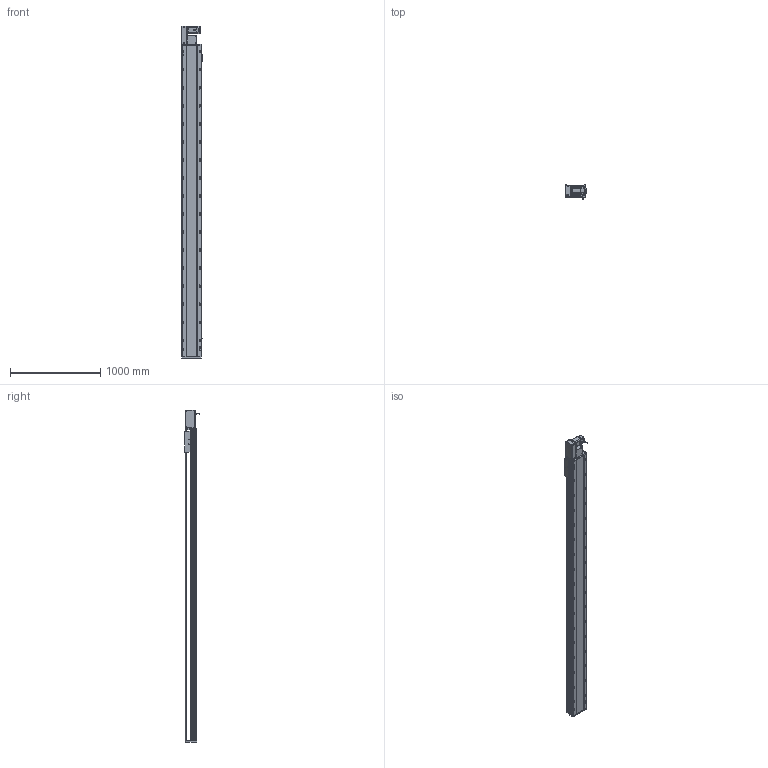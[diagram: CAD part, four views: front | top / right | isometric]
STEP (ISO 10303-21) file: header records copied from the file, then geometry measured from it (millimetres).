
FILE_DESCRIPTION (( 'STEP AP214' ), '1' );
FILE_NAME ('RTB22S-XX-3100-L-M75-C4.STEP', '2025-12-12T03:33:17', ( '' ), ( '' ), 'SwSTEP 2.0', 'SolidWorks 2018', '' );
FILE_SCHEMA (( 'AUTOMOTIVE_DESIGN' ));
Length unit declared in the file: millimetre
Products named in the file (14): RTB22S-GY-005P^RTB22S-L-々湍釱蚾饜_RTB22S-XX-XX-L-M75-C4; RTB22S-L-011菁釱^RTB22S-XX-XX-L-M75-C4; RTB22S-XX-3100-L-M75-C4; RTB22S-GY-018P^RTB22S-L-々湍釱蚾饜_RTB22S-XX-XX-L-M75-C4; RTB22S-GY-014--々湍釱^RTB22S-L-々湍釱蚾饜_RTB22S-XX-XX-L-M75-C4; RTB22S-GY-007奻裔^RTB22S-XX-XX-L-M75-C4; RTB22S-GY-008-M75--萇儂啣^RTB22S-L-々湍釱蚾饜_RTB22S-XX-XX-L-M75-C4; RTH22-GY-013外置感应片^RTB22S-XX-XX-L-M75-C4; RTB22S-L-004賑釱^RTB22S-XX-XX-L-M75-C4; RTB22S-GY-017P^RTB22S-L-々湍釱蚾饜_RTB22S-XX-XX-L-M75-C4; RTB22S-GY-001耜裔^RTB22S-XX-XX-L-M75-C4; OMRON EE-SX672 传感器^RTB22S-XX-XX-L-M75-C4; 750W萇儂^RTB22S-XX-XX-L-M75-C4; RTB22S-L-々湍釱蚾饜^RTB22S-XX-XX-L-M75-C4
Assembly tree (16 placements, depth 3):
  RTB22S-XX-3100-L-M75-C4
    RTB22S-L-011菁釱^RTB22S-XX-XX-L-M75-C4
    750W萇儂^RTB22S-XX-XX-L-M75-C4
    RTB22S-L-004賑釱^RTB22S-XX-XX-L-M75-C4
    OMRON EE-SX672 传感器^RTB22S-XX-XX-L-M75-C4  x3
    RTH22-GY-013外置感应片^RTB22S-XX-XX-L-M75-C4
    RTB22S-GY-007奻裔^RTB22S-XX-XX-L-M75-C4
    RTB22S-GY-001耜裔^RTB22S-XX-XX-L-M75-C4
    RTB22S-L-々湍釱蚾饜^RTB22S-XX-XX-L-M75-C4
      RTB22S-GY-014--々湍釱^RTB22S-L-々湍釱蚾饜_RTB22S-XX-XX-L-M75-C4
      RTB22S-GY-017P^RTB22S-L-々湍釱蚾饜_RTB22S-XX-XX-L-M75-C4  x2
      RTB22S-GY-005P^RTB22S-L-々湍釱蚾饜_RTB22S-XX-XX-L-M75-C4
      RTB22S-GY-008-M75--萇儂啣^RTB22S-L-々湍釱蚾饜_RTB22S-XX-XX-L-M75-C4
      RTB22S-GY-018P^RTB22S-L-々湍釱蚾饜_RTB22S-XX-XX-L-M75-C4
Bounding box: 238.5 x 162.7 x 3679 mm (x, y, z)
Volume: 45752564 mm3; surface area: 4663314.6 mm2
Topology: 15 solids, 15 shells, 2163 faces, 5886 edges, 3752 vertices
Faces by surface type: plane 935, cylinder 742, bspline 296, cone 178, sphere 8, torus 4
Entity records: 59348 total; most frequent: CARTESIAN_POINT 16652, ORIENTED_EDGE 8480, DIRECTION 8334, EDGE_CURVE 4240, AXIS2_PLACEMENT_3D 3006, VERTEX_POINT 2756, VECTOR 2322, LINE 2322
